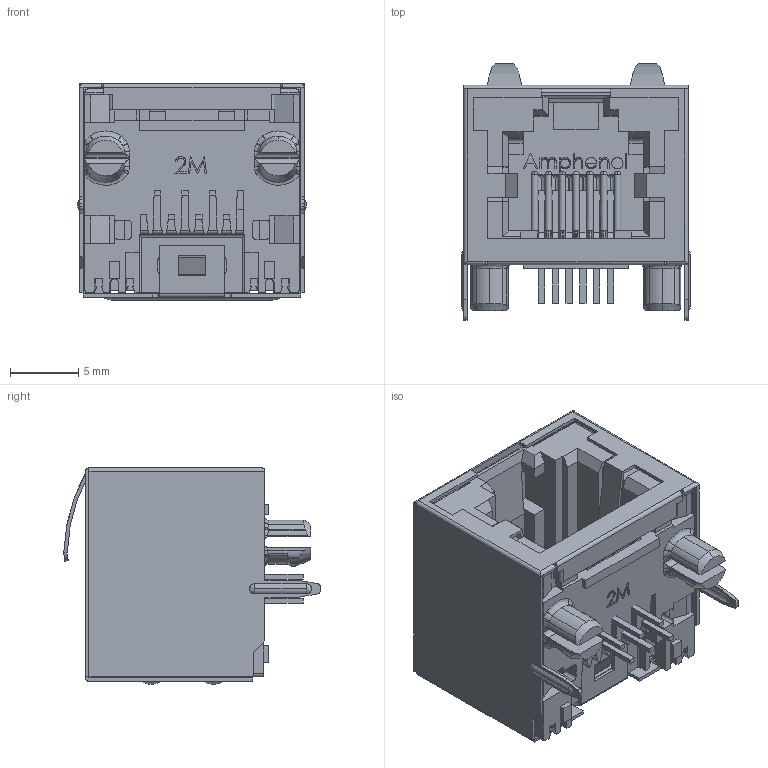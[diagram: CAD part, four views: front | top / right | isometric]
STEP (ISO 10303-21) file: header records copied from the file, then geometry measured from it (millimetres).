
FILE_DESCRIPTION (( 'STEP AP214' ), '1' );
FILE_NAME ('ACC-M-RJHSE-7360-REVT1.STEP', '2018-12-24T23:46:33', ( '' ), ( '' ), 'SwSTEP 2.0', 'SolidWorks 2018', '' );
FILE_SCHEMA (( 'AUTOMOTIVE_DESIGN' ));
Length unit declared in the file: inch
Products named in the file (1): ACC-M-RJHSE-7360-REVT1
Bounding box: 16.83 x 18.84 x 15.9 mm (x, y, z)
Surface area: 4317 mm2 (no closed solid volume)
Topology: 0 solids, 1 shells, 1380 faces, 4009 edges, 2606 vertices
Faces by surface type: plane 952, cylinder 273, bspline 148, cone 7
Entity records: 75950 total; most frequent: CARTESIAN_POINT 24551, ORIENTED_EDGE 7990, DIRECTION 5299, EDGE_CURVE 3995, VECTOR 2665, LINE 2665, VERTEX_POINT 2606, EDGE_LOOP 1433
